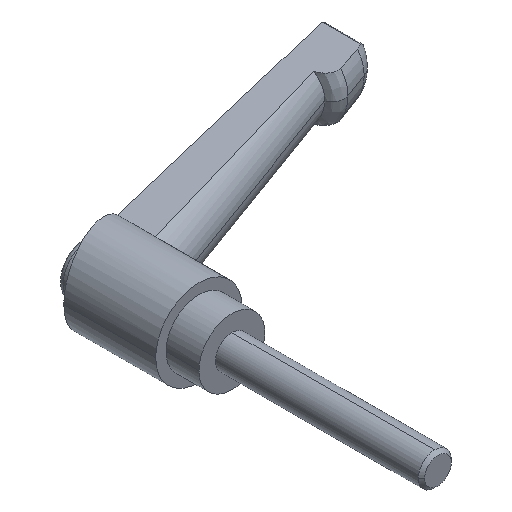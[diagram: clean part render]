
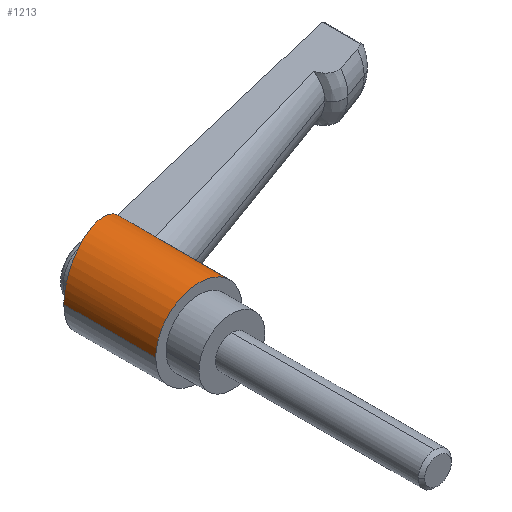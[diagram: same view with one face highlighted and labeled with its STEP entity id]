
A CAD part, isometric view. The second image highlights one B-rep face of the part: STEP entity #1213.
In plain terms, the highlighted cylindrical face has radius 10.5 mm (diameter 21 mm), a partial arc.
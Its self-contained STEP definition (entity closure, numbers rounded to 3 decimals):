
#68 = CARTESIAN_POINT ( 'NONE',  ( 10.5, 0., 0. ) ) ;
#79 = EDGE_CURVE ( 'NONE', #2052, #2664, #1329, .T. ) ;
#129 = ORIENTED_EDGE ( 'NONE', *, *, #992, .T. ) ;
#147 = CARTESIAN_POINT ( 'NONE',  ( 0., 0., 0. ) ) ;
#169 = ORIENTED_EDGE ( 'NONE', *, *, #79, .T. ) ;
#183 = CARTESIAN_POINT ( 'NONE',  ( 10.5, 8., 0. ) ) ;
#221 = CARTESIAN_POINT ( 'NONE',  ( 10.478, 22.022, 0.789 ) ) ;
#284 = CIRCLE ( 'NONE', #1830, 10.5 ) ;
#292 = DIRECTION ( 'NONE',  ( 0., -1., 0. ) ) ;
#299 = CYLINDRICAL_SURFACE ( 'NONE', #525, 10.5 ) ;
#361 = DIRECTION ( 'NONE',  ( 0., -1., 0. ) ) ;
#417 = CARTESIAN_POINT ( 'NONE',  ( 10.044, 22.456, 3.085 ) ) ;
#452 = ORIENTED_EDGE ( 'NONE', *, *, #1638, .T. ) ;
#479 = CARTESIAN_POINT ( 'NONE',  ( 10.149, 22.349, 2.719 ) ) ;
#525 = AXIS2_PLACEMENT_3D ( 'NONE', #147, #1023, #2111 ) ;
#528 = FACE_OUTER_BOUND ( 'NONE', #979, .T. ) ;
#532 = CARTESIAN_POINT ( 'NONE',  ( 7.348, 25.902, 7.5 ) ) ;
#595 = DIRECTION ( 'NONE',  ( 0., 1., 0. ) ) ;
#602 = CARTESIAN_POINT ( 'NONE',  ( -10.5, 0., 0. ) ) ;
#633 = CARTESIAN_POINT ( 'NONE',  ( -10.5, 30.286, 10.908 ) ) ;
#640 = CARTESIAN_POINT ( 'NONE',  ( 7.696, 25.264, 7.16 ) ) ;
#650 = VERTEX_POINT ( 'NONE', #183 ) ;
#653 = CARTESIAN_POINT ( 'NONE',  ( 10.5, 22., 0. ) ) ;
#745 = EDGE_CURVE ( 'NONE', #1534, #650, #2500, .T. ) ;
#838 = VECTOR ( 'NONE', #292, 1000. ) ;
#852 = ORIENTED_EDGE ( 'NONE', *, *, #745, .F. ) ;
#869 = CARTESIAN_POINT ( 'NONE',  ( 10.5, 22., 0. ) ) ;
#883 = CARTESIAN_POINT ( 'NONE',  ( 9.798, 22.71, 3.794 ) ) ;
#915 = CARTESIAN_POINT ( 'NONE',  ( 7.348, 25.902, 7.5 ) ) ;
#965 = CARTESIAN_POINT ( 'NONE',  ( 0., 8., 0. ) ) ;
#979 = EDGE_LOOP ( 'NONE', ( #169, #129, #452, #852, #1845, #1320 ) ) ;
#992 = EDGE_CURVE ( 'NONE', #2664, #1157, #2589, .T. ) ;
#1023 = DIRECTION ( 'NONE',  ( 0., -1., 0. ) ) ;
#1060 = CARTESIAN_POINT ( 'NONE',  ( -10.5, 30.286, 0. ) ) ;
#1069 = CARTESIAN_POINT ( 'NONE',  ( 7.348, 35.069, 7.5 ) ) ;
#1091 = CARTESIAN_POINT ( 'NONE',  ( 9.656, 22.859, 4.14 ) ) ;
#1139 = CARTESIAN_POINT ( 'NONE',  ( 8.833, 23.779, 5.687 ) ) ;
#1157 = VERTEX_POINT ( 'NONE', #1600 ) ;
#1213 = ADVANCED_FACE ( 'NONE', ( #528 ), #299, .T. ) ;
#1320 = ORIENTED_EDGE ( 'NONE', *, *, #2283, .T. ) ;
#1329 =( BOUNDED_CURVE ( )  B_SPLINE_CURVE ( 3, ( #1069, #1466, #633, #1060 ),
 .UNSPECIFIED., .F., .T. ) 
 B_SPLINE_CURVE_WITH_KNOTS ( ( 4, 4 ),
 ( 3.937, 6.283 ),
 .UNSPECIFIED. ) 
 CURVE ( )  GEOMETRIC_REPRESENTATION_ITEM ( )  RATIONAL_B_SPLINE_CURVE ( ( 1., 0.592, 0.592, 1. ) ) 
 REPRESENTATION_ITEM ( '' )  );
#1345 = EDGE_CURVE ( 'NONE', #1534, #2185, #1626, .T. ) ;
#1355 = CARTESIAN_POINT ( 'NONE',  ( 8.082, 24.722, 6.733 ) ) ;
#1392 = VECTOR ( 'NONE', #361, 1000. ) ;
#1466 = CARTESIAN_POINT ( 'NONE',  ( -0.443, 32.981, 15.134 ) ) ;
#1534 = VERTEX_POINT ( 'NONE', #869 ) ;
#1600 = CARTESIAN_POINT ( 'NONE',  ( -10.5, 8., 0. ) ) ;
#1626 = B_SPLINE_CURVE_WITH_KNOTS ( 'NONE', 3,
 ( #653, #2198, #221, #1710, #1966, #479, #417, #883, #1091, #2228, #2609, #1139, #1949, #1355, #640, #915 ),
 .UNSPECIFIED., .F., .F.,
 ( 4, 2, 2, 2, 2, 2, 2, 4 ),
 ( 0.009, 0.011, 0.012, 0.013, 0.014, 0.015, 0.017, 0.019 ),
 .UNSPECIFIED. ) ;
#1638 = EDGE_CURVE ( 'NONE', #1157, #650, #284, .T. ) ;
#1710 = CARTESIAN_POINT ( 'NONE',  ( 10.389, 22.109, 1.572 ) ) ;
#1830 = AXIS2_PLACEMENT_3D ( 'NONE', #965, #2324, #2511 ) ;
#1845 = ORIENTED_EDGE ( 'NONE', *, *, #1345, .T. ) ;
#1890 = CARTESIAN_POINT ( 'NONE',  ( -10.5, 30.286, 0. ) ) ;
#1949 = CARTESIAN_POINT ( 'NONE',  ( 8.648, 24.001, 5.963 ) ) ;
#1966 = CARTESIAN_POINT ( 'NONE',  ( 10.322, 22.176, 1.964 ) ) ;
#2052 = VERTEX_POINT ( 'NONE', #2655 ) ;
#2111 = DIRECTION ( 'NONE',  ( 1., 0., 0. ) ) ;
#2185 = VERTEX_POINT ( 'NONE', #532 ) ;
#2198 = CARTESIAN_POINT ( 'NONE',  ( 10.5, 22., 0.395 ) ) ;
#2228 = CARTESIAN_POINT ( 'NONE',  ( 9.349, 23.191, 4.794 ) ) ;
#2283 = EDGE_CURVE ( 'NONE', #2185, #2052, #2763, .T. ) ;
#2324 = DIRECTION ( 'NONE',  ( 0., 1., 0. ) ) ;
#2500 = LINE ( 'NONE', #68, #838 ) ;
#2503 = VECTOR ( 'NONE', #595, 1000. ) ;
#2511 = DIRECTION ( 'NONE',  ( 1., 0., 0. ) ) ;
#2565 = CARTESIAN_POINT ( 'NONE',  ( 7.348, 0., 7.5 ) ) ;
#2589 = LINE ( 'NONE', #602, #1392 ) ;
#2609 = CARTESIAN_POINT ( 'NONE',  ( 9.183, 23.375, 5.103 ) ) ;
#2655 = CARTESIAN_POINT ( 'NONE',  ( 7.348, 35.069, 7.5 ) ) ;
#2664 = VERTEX_POINT ( 'NONE', #1890 ) ;
#2763 = LINE ( 'NONE', #2565, #2503 ) ;
